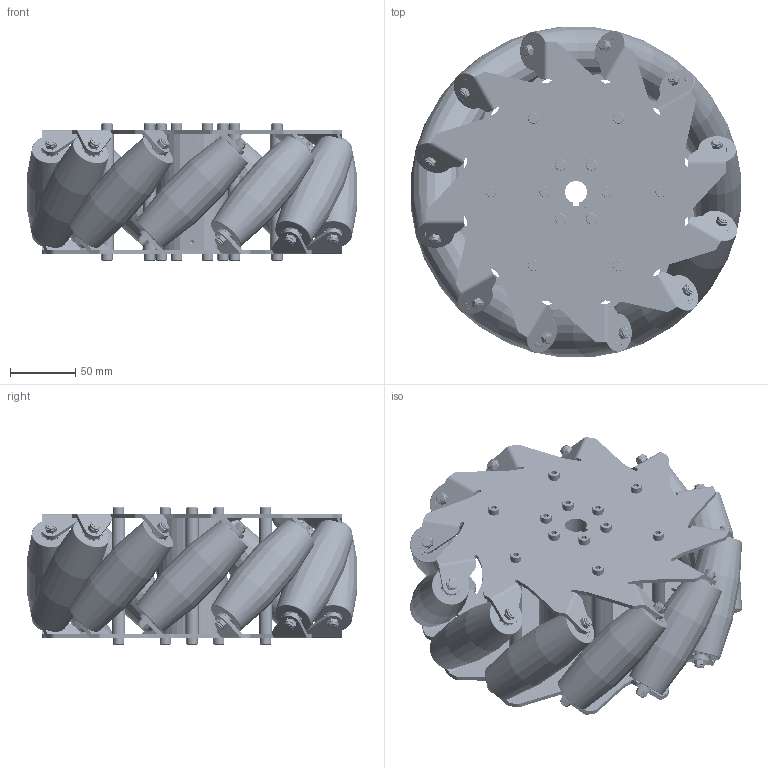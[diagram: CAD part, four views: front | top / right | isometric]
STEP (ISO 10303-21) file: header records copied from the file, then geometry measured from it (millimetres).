
FILE_DESCRIPTION(('Open CASCADE Model'),'2;1');
FILE_NAME('Open CASCADE Shape Model','2026-10-14T19:18:11',('Author'),( 'Open CASCADE'),'Open CASCADE STEP processor 7.7','Open CASCADE 7.7' ,'Unknown');
FILE_SCHEMA(('AUTOMOTIVE_DESIGN { 1 0 10303 214 1 1 1 1 }'));
Length unit declared in the file: millimetre
Products named in the file (384): Open CASCADE STEP translator 7.7 1; Open CASCADE STEP translator 7.7 1.1; Open CASCADE STEP translator 7.7 1.2; Open CASCADE STEP translator 7.7 1.2.1; Open CASCADE STEP translator 7.7 1.2.2; Open CASCADE STEP translator 7.7 1.2.3; Open CASCADE STEP translator 7.7 1.2.4; Open CASCADE STEP translator 7.7 1.2.5; Open CASCADE STEP translator 7.7 1.2.6; Open CASCADE STEP translator 7.7 1.2.7; Open CASCADE STEP translator 7.7 1.2.8; Open CASCADE STEP translator 7.7 1.2.9; Open CASCADE STEP translator 7.7 1.2.10; Open CASCADE STEP translator 7.7 1.2.11; Open CASCADE STEP translator 7.7 1.2.12; Open CASCADE STEP translator 7.7 1.2.13; Open CASCADE STEP translator 7.7 1.2.14; Open CASCADE STEP translator 7.7 1.2.15; Open CASCADE STEP translator 7.7 1.2.16; Open CASCADE STEP translator 7.7 1.2.17; Open CASCADE STEP translator 7.7 1.2.18; Open CASCADE STEP translator 7.7 1.2.19; Open CASCADE STEP translator 7.7 1.2.20; Open CASCADE STEP translator 7.7 1.2.21; Open CASCADE STEP translator 7.7 1.2.22; Open CASCADE STEP translator 7.7 1.2.23; Open CASCADE STEP translator 7.7 1.2.24; Open CASCADE STEP translator 7.7 1.2.25; Open CASCADE STEP translator 7.7 1.3; Open CASCADE STEP translator 7.7 1.4; Open CASCADE STEP translator 7.7 1.4.1; Open CASCADE STEP translator 7.7 1.4.2; Open CASCADE STEP translator 7.7 1.4.3; Open CASCADE STEP translator 7.7 1.4.4; Open CASCADE STEP translator 7.7 1.4.5; Open CASCADE STEP translator 7.7 1.4.6; Open CASCADE STEP translator 7.7 1.4.7; Open CASCADE STEP translator 7.7 1.4.8; Open CASCADE STEP translator 7.7 1.4.9; Open CASCADE STEP translator 7.7 1.4.10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
Assembly tree (383 placements, depth 4):
  Open CASCADE STEP translator 7.7 1
    Open CASCADE STEP translator 7.7 1.1
    Open CASCADE STEP translator 7.7 1.2
      Open CASCADE STEP translator 7.7 1.2.1
      Open CASCADE STEP translator 7.7 1.2.2
      Open CASCADE STEP translator 7.7 1.2.3
      Open CASCADE STEP translator 7.7 1.2.4
      Open CASCADE STEP translator 7.7 1.2.5
      Open CASCADE STEP translator 7.7 1.2.6
      Open CASCADE STEP translator 7.7 1.2.7
      Open CASCADE STEP translator 7.7 1.2.8
      Open CASCADE STEP translator 7.7 1.2.9
      Open CASCADE STEP translator 7.7 1.2.10
      Open CASCADE STEP translator 7.7 1.2.11
      Open CASCADE STEP translator 7.7 1.2.12
      Open CASCADE STEP translator 7.7 1.2.13
      Open CASCADE STEP translator 7.7 1.2.14
      Open CASCADE STEP translator 7.7 1.2.15
      Open CASCADE STEP translator 7.7 1.2.16
      Open CASCADE STEP translator 7.7 1.2.17
      Open CASCADE STEP translator 7.7 1.2.18
      Open CASCADE STEP translator 7.7 1.2.19
      Open CASCADE STEP translator 7.7 1.2.20
      Open CASCADE STEP translator 7.7 1.2.21
      Open CASCADE STEP translator 7.7 1.2.22
      Open CASCADE STEP translator 7.7 1.2.23
      Open CASCADE STEP translator 7.7 1.2.24
      Open CASCADE STEP translator 7.7 1.2.25
    Open CASCADE STEP translator 7.7 1.3
    Open CASCADE STEP translator 7.7 1.4
      Open CASCADE STEP translator 7.7 1.4.1
      Open CASCADE STEP translator 7.7 1.4.2
      Open CASCADE STEP translator 7.7 1.4.3
      Open CASCADE STEP translator 7.7 1.4.4
      Open CASCADE STEP translator 7.7 1.4.5
      Open CASCADE STEP translator 7.7 1.4.6
      Open CASCADE STEP translator 7.7 1.4.7
      Open CASCADE STEP translator 7.7 1.4.8
      Open CASCADE STEP translator 7.7 1.4.9
      Open CASCADE STEP translator 7.7 1.4.10
      Open CASCADE STEP translator 7.7 1.4.11
      Open CASCADE STEP translator 7.7 1.4.12
      Open CASCADE STEP translator 7.7 1.4.13
      Open CASCADE STEP translator 7.7 1.4.14
      Open CASCADE STEP translator 7.7 1.4.15
      Open CASCADE STEP translator 7.7 1.4.16
      Open CASCADE STEP translator 7.7 1.4.17
      Open CASCADE STEP translator 7.7 1.4.18
      Open CASCADE STEP translator 7.7 1.4.19
      Open CASCADE STEP translator 7.7 1.4.20
      Open CASCADE STEP translator 7.7 1.4.21
      Open CASCADE STEP translator 7.7 1.4.22
      Open CASCADE STEP translator 7.7 1.4.23
      Open CASCADE STEP translator 7.7 1.4.24
      Open CASCADE STEP translator 7.7 1.4.25
    Open CASCADE STEP translator 7.7 1.5
    Open CASCADE STEP translator 7.7 1.6
    Open CASCADE STEP translator 7.7 1.7
    Open CASCADE STEP translator 7.7 1.8
    Open CASCADE STEP translator 7.7 1.9
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Bounding box: 252.45 x 252.45 x 105 mm (x, y, z)
Volume: 1528175 mm3; surface area: 463785.1 mm2
Topology: 345 solids, 345 shells, 3453 faces, 8012 edges, 4963 vertices
Faces by surface type: cylinder 1142, plane 989, torus 624, sphere 384, cone 290, revolution 24
Entity records: 231942 total; most frequent: CARTESIAN_POINT 69108, DIRECTION 31498, ORIENTED_EDGE 15156, PCURVE 15156, DEFINITIONAL_REPRESENTATION 15156, LINE 14448, VECTOR 14448, AXIS2_PLACEMENT_3D 8087
